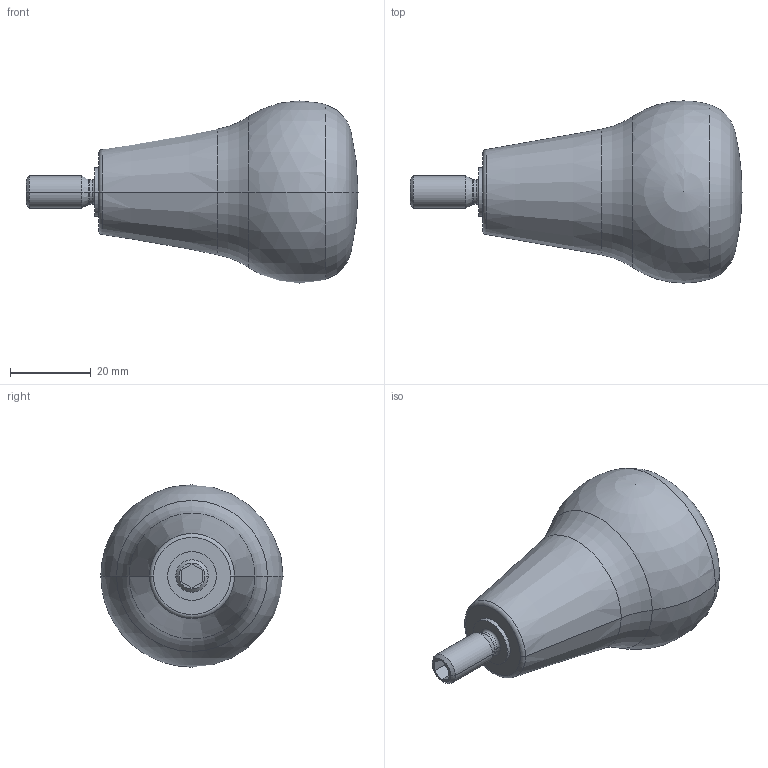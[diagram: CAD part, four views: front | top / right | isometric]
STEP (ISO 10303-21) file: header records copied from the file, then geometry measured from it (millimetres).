
FILE_DESCRIPTION (( 'STEP AP214' ), '1' );
FILE_NAME ('597.1-45-64-M8.step', '2019-05-20T07:12:42', ( 'user' ), ( '' ), 'SwSTEP 2.0', 'SolidWorks 2019', '' );
FILE_SCHEMA (( 'AUTOMOTIVE_DESIGN' ));
Length unit declared in the file: millimetre
Products named in the file (1): 597.1-45-64-M8
Bounding box: 82 x 45 x 45 mm (x, y, z)
Volume: 59244.5 mm3; surface area: 8669.6 mm2
Topology: 1 solids, 1 shells, 36 faces, 79 edges, 46 vertices
Faces by surface type: torus 10, plane 10, cone 6, cylinder 6, sphere 4
Entity records: 1204 total; most frequent: DIRECTION 192, CARTESIAN_POINT 154, ORIENTED_EDGE 148, AXIS2_PLACEMENT_3D 81, EDGE_CURVE 74, CIRCLE 44, VERTEX_POINT 43, EDGE_LOOP 39
